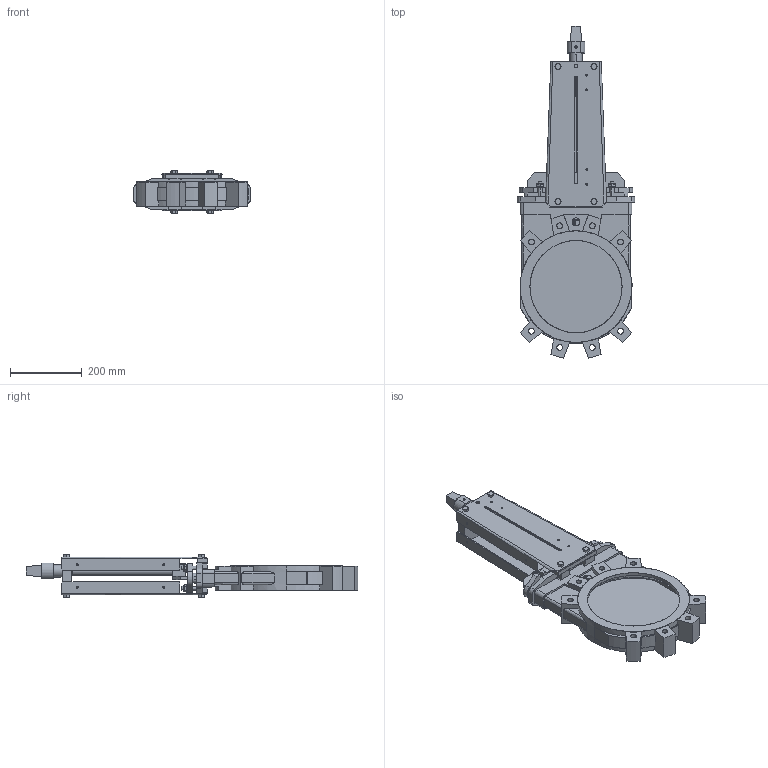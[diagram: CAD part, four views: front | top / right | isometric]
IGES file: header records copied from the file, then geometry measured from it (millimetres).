
Start section: SolidWorks IGES file using analytic representation for surfaces
Global section: file name: D:\part\3D Projects\VG-SQUARE OPERATING NON RASING(DN50-600)\VG S N DN250\VG S N DN250.IGS; native system: SolidWorks 2009; preprocessor: SolidWorks 2009; author: zhixin.zheng; date: 100504.150854; units: millimetre
Bounding box: 326 x 922.12 x 117.8 mm (x, y, z)
Surface area: 965816.6 mm2 (no closed solid volume)
Topology: 0 solids, 0 shells, 778 faces, 8305 edges, 8305 vertices
Faces by surface type: bspline 480, revolution 298
